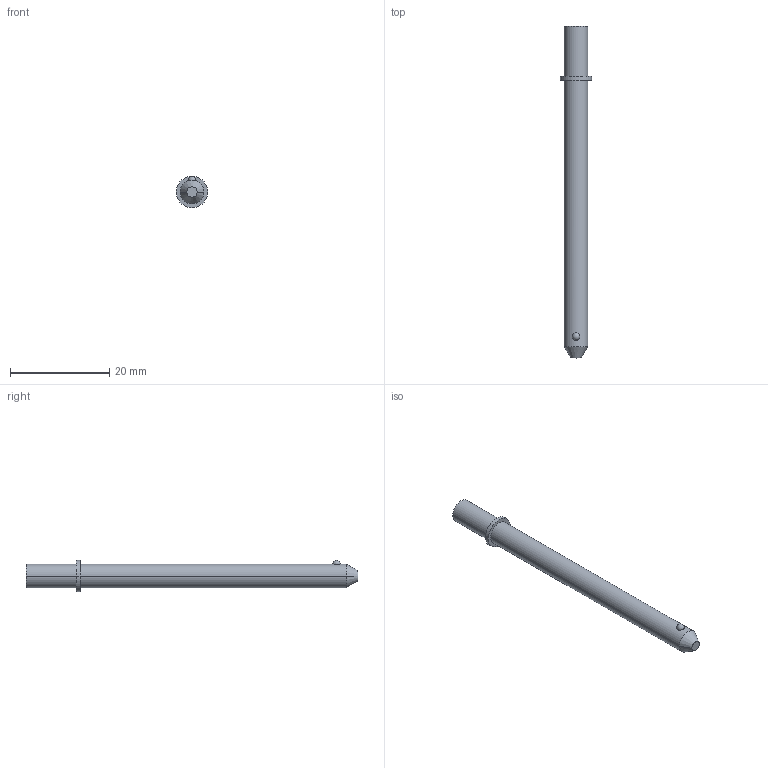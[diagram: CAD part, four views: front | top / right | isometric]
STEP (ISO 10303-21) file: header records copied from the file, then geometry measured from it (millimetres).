
FILE_DESCRIPTION((''),'2;1');
FILE_NAME('FA-352','2016-08-15T',('jpeters'),('Keithley Instruments'),'CREO PARAMETRIC BY PTC INC, 2016050','CREO PARAMETRIC BY PTC INC, 2016050','');
FILE_SCHEMA(('CONFIG_CONTROL_DESIGN'));
Length unit declared in the file: inch
Products named in the file (1): FA-352
Bounding box: 6.35 x 67.06 x 6.35 mm (x, y, z)
Volume: 1193.9 mm3; surface area: 1055.2 mm2
Topology: 1 solids, 1 shells, 13 faces, 26 edges, 16 vertices
Faces by surface type: cylinder 6, plane 4, cone 2, sphere 1
Entity records: 390 total; most frequent: CARTESIAN_POINT 75, DIRECTION 62, ORIENTED_EDGE 48, AXIS2_PLACEMENT_3D 27, EDGE_CURVE 24, VERTEX_POINT 16, EDGE_LOOP 16, CIRCLE 14
